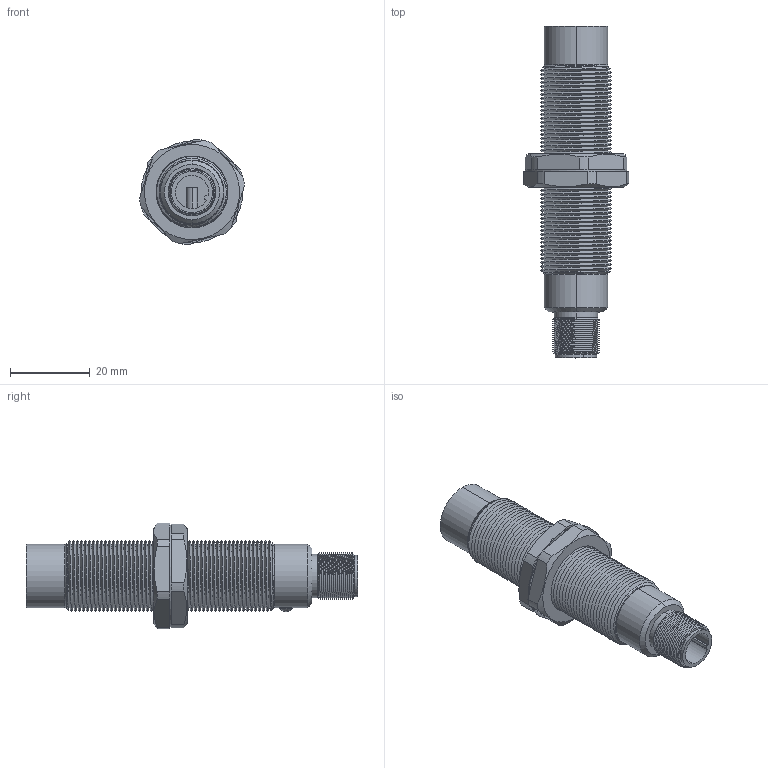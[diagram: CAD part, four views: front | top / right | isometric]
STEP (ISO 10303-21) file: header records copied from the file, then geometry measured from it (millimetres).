
FILE_DESCRIPTION (( 'STEP AP214' ), '1' );
FILE_NAME ('IPS18 SOKETLÝ MODEL.STEP', '2022-06-24T07:15:18', ( '' ), ( '' ), 'SwSTEP 2.0', 'SolidWorks 2014', '' );
FILE_SCHEMA (( 'AUTOMOTIVE_DESIGN' ));
Length unit declared in the file: millimetre
Products named in the file (1): IPS18 SOKETLÝ MODEL
Bounding box: 26.3 x 83 x 26.45 mm (x, y, z)
Surface area: 10030.8 mm2 (no closed solid volume)
Topology: 0 solids, 9 shells, 96 faces, 250 edges, 166 vertices
Faces by surface type: cone 31, cylinder 31, plane 28, bspline 4, sphere 2
Entity records: 9999 total; most frequent: CARTESIAN_POINT 6589, DIRECTION 500, ORIENTED_EDGE 456, EDGE_CURVE 250, AXIS2_PLACEMENT_3D 202, VERTEX_POINT 166, CIRCLE 109, EDGE_LOOP 108
